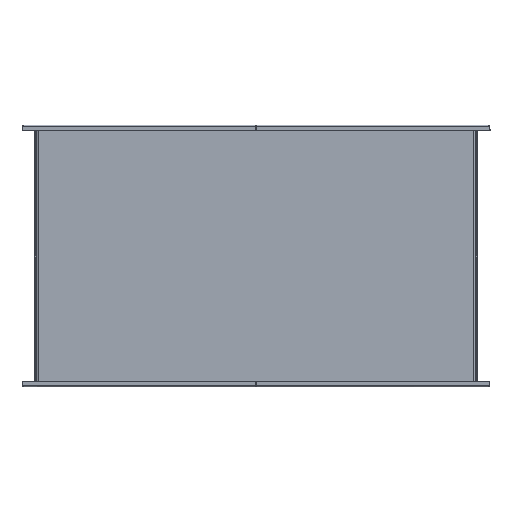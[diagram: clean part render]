
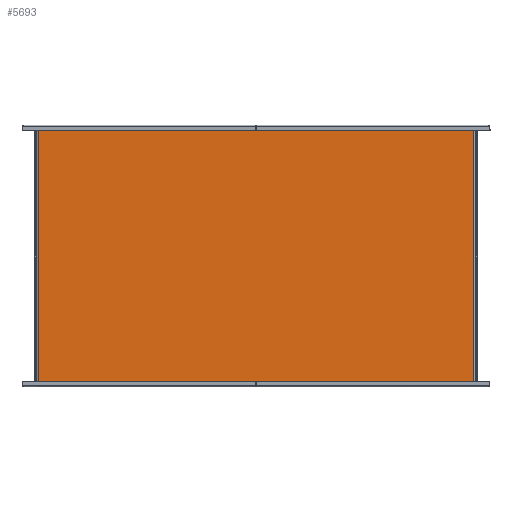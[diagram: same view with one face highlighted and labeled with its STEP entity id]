
A CAD part, front view. The second image highlights one B-rep face of the part: STEP entity #5693.
In plain terms, the highlighted planar face has unit normal (0, -1, 0).
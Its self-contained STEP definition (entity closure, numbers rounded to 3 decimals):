
#1054 = CARTESIAN_POINT ( 'NONE',  ( -297.7, -1., -175.7 ) ) ;
#1239 = CARTESIAN_POINT ( 'NONE',  ( 297.7, -1., -175.7 ) ) ;
#1835 = LINE ( 'NONE', #11979, #1837 ) ;
#1837 = VECTOR ( 'NONE', #11980, 1000. ) ;
#2556 = FACE_OUTER_BOUND ( 'NONE', #12768, .T. ) ;
#3872 = PLANE ( 'NONE',  #6208 ) ;
#3933 = VERTEX_POINT ( 'NONE', #1054 ) ;
#4055 = CARTESIAN_POINT ( 'NONE',  ( -300., -1., 177. ) ) ;
#4071 = DIRECTION ( 'NONE',  ( 0., 1., 0. ) ) ;
#4160 = DIRECTION ( 'NONE',  ( 0., 0., 1. ) ) ;
#4407 = VERTEX_POINT ( 'NONE', #1239 ) ;
#5693 = ADVANCED_FACE ( 'NONE', ( #2556 ), #3872, .F. ) ;
#6208 = AXIS2_PLACEMENT_3D ( 'NONE', #4055, #4071, #4160 ) ;
#11418 = CARTESIAN_POINT ( 'NONE',  ( -297.7, -1., 177. ) ) ;
#11419 = DIRECTION ( 'NONE',  ( 0., 0., -1. ) ) ;
#11979 = CARTESIAN_POINT ( 'NONE',  ( 297.7, -1., -177. ) ) ;
#11980 = DIRECTION ( 'NONE',  ( 0., 0., 1. ) ) ;
#12768 = EDGE_LOOP ( 'NONE', ( #22147, #22136, #21981, #22159 ) ) ;
#13428 = CARTESIAN_POINT ( 'NONE',  ( 297.7, -1., 175.7 ) ) ;
#13498 = CARTESIAN_POINT ( 'NONE',  ( -297.7, -1., 175.7 ) ) ;
#15258 = VECTOR ( 'NONE', #17579, 1000. ) ;
#15525 = LINE ( 'NONE', #17664, #15549 ) ;
#15549 = VECTOR ( 'NONE', #17659, 1000. ) ;
#15563 = LINE ( 'NONE', #17573, #15258 ) ;
#17573 = CARTESIAN_POINT ( 'NONE',  ( 297.7, -1., 175.7 ) ) ;
#17579 = DIRECTION ( 'NONE',  ( -1., 0., 0. ) ) ;
#17659 = DIRECTION ( 'NONE',  ( 1., 0., 0. ) ) ;
#17664 = CARTESIAN_POINT ( 'NONE',  ( -297.7, -1., -175.7 ) ) ;
#19477 = LINE ( 'NONE', #11418, #19479 ) ;
#19479 = VECTOR ( 'NONE', #11419, 1000. ) ;
#21906 = VERTEX_POINT ( 'NONE', #13428 ) ;
#21979 = VERTEX_POINT ( 'NONE', #13498 ) ;
#21981 = ORIENTED_EDGE ( 'NONE', *, *, #22996, .T. ) ;
#22136 = ORIENTED_EDGE ( 'NONE', *, *, #23780, .T. ) ;
#22147 = ORIENTED_EDGE ( 'NONE', *, *, #23027, .T. ) ;
#22159 = ORIENTED_EDGE ( 'NONE', *, *, #23649, .T. ) ;
#22996 = EDGE_CURVE ( 'NONE', #21906, #21979, #15563, .T. ) ;
#23027 = EDGE_CURVE ( 'NONE', #3933, #4407, #15525, .T. ) ;
#23649 = EDGE_CURVE ( 'NONE', #21979, #3933, #19477, .T. ) ;
#23780 = EDGE_CURVE ( 'NONE', #4407, #21906, #1835, .T. ) ;
